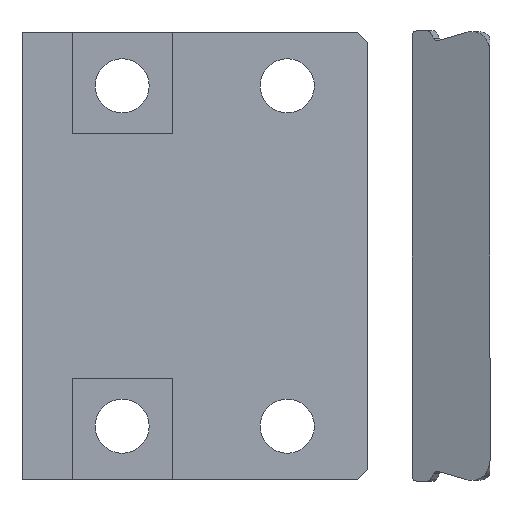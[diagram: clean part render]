
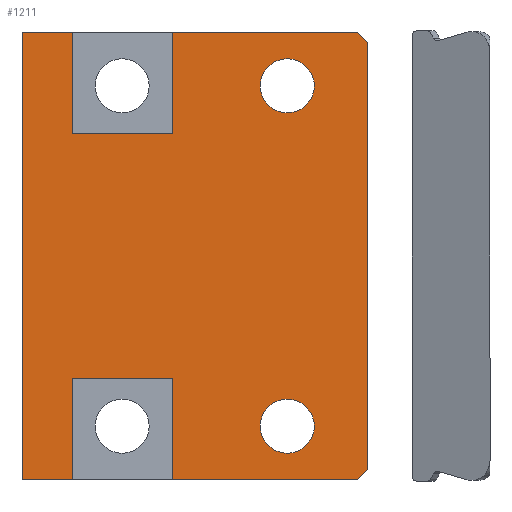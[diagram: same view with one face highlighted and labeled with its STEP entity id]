
A CAD part, front view. The second image highlights one B-rep face of the part: STEP entity #1211.
In plain terms, the highlighted planar face has unit normal (0, -1, 0).
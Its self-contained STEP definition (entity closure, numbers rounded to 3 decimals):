
#772 = VERTEX_POINT ( 'NONE', #1630 ) ;
#775 = VERTEX_POINT ( 'NONE', #1629 ) ;
#827 = EDGE_CURVE ( 'NONE', #772, #775, #1721, .T. ) ;
#828 = VERTEX_POINT ( 'NONE', #1716 ) ;
#850 = EDGE_CURVE ( 'NONE', #828, #852, #1787, .T. ) ;
#852 = VERTEX_POINT ( 'NONE', #1782 ) ;
#856 = VERTEX_POINT ( 'NONE', #1779 ) ;
#1094 = EDGE_CURVE ( 'NONE', #1095, #1096, #2206, .T. ) ;
#1095 = VERTEX_POINT ( 'NONE', #2202 ) ;
#1096 = VERTEX_POINT ( 'NONE', #2201 ) ;
#1099 = EDGE_CURVE ( 'NONE', #1100, #1101, #2200, .T. ) ;
#1100 = VERTEX_POINT ( 'NONE', #2196 ) ;
#1101 = VERTEX_POINT ( 'NONE', #2195 ) ;
#1112 = VERTEX_POINT ( 'NONE', #2237 ) ;
#1133 = VERTEX_POINT ( 'NONE', #2264 ) ;
#1135 = EDGE_CURVE ( 'NONE', #1133, #856, #2263, .T. ) ;
#1136 = ORIENTED_EDGE ( 'NONE', *, *, #850, .T. ) ;
#1137 = EDGE_LOOP ( 'NONE', ( #1193, #1196, #1199, #1202, #1205, #1181, #1182, #1184, #1185, #1187, #1188, #1190, #1191, #1252 ) ) ;
#1150 = VERTEX_POINT ( 'NONE', #2298 ) ;
#1167 = EDGE_CURVE ( 'NONE', #1168, #1112, #2336, .T. ) ;
#1168 = VERTEX_POINT ( 'NONE', #2332 ) ;
#1181 = ORIENTED_EDGE ( 'NONE', *, *, #1207, .T. ) ;
#1182 = ORIENTED_EDGE ( 'NONE', *, *, #1183, .F. ) ;
#1183 = EDGE_CURVE ( 'NONE', #1096, #1150, #2306, .T. ) ;
#1184 = ORIENTED_EDGE ( 'NONE', *, *, #1094, .F. ) ;
#1185 = ORIENTED_EDGE ( 'NONE', *, *, #1186, .F. ) ;
#1186 = EDGE_CURVE ( 'NONE', #1168, #1095, #2362, .T. ) ;
#1187 = ORIENTED_EDGE ( 'NONE', *, *, #1167, .T. ) ;
#1188 = ORIENTED_EDGE ( 'NONE', *, *, #1189, .T. ) ;
#1189 = EDGE_CURVE ( 'NONE', #1112, #856, #2358, .T. ) ;
#1190 = ORIENTED_EDGE ( 'NONE', *, *, #1135, .F. ) ;
#1191 = ORIENTED_EDGE ( 'NONE', *, *, #1192, .F. ) ;
#1192 = EDGE_CURVE ( 'NONE', #1100, #1133, #2354, .T. ) ;
#1193 = ORIENTED_EDGE ( 'NONE', *, *, #1194, .T. ) ;
#1194 = EDGE_CURVE ( 'NONE', #1101, #1195, #2350, .T. ) ;
#1195 = VERTEX_POINT ( 'NONE', #2346 ) ;
#1196 = ORIENTED_EDGE ( 'NONE', *, *, #1197, .T. ) ;
#1197 = EDGE_CURVE ( 'NONE', #1195, #1198, #2345, .T. ) ;
#1198 = VERTEX_POINT ( 'NONE', #2341 ) ;
#1199 = ORIENTED_EDGE ( 'NONE', *, *, #1200, .F. ) ;
#1200 = EDGE_CURVE ( 'NONE', #1201, #1198, #2340, .T. ) ;
#1201 = VERTEX_POINT ( 'NONE', #2399 ) ;
#1202 = ORIENTED_EDGE ( 'NONE', *, *, #1203, .T. ) ;
#1203 = EDGE_CURVE ( 'NONE', #1201, #1204, #2398, .T. ) ;
#1204 = VERTEX_POINT ( 'NONE', #2394 ) ;
#1205 = ORIENTED_EDGE ( 'NONE', *, *, #1206, .F. ) ;
#1206 = EDGE_CURVE ( 'NONE', #1208, #1204, #2393, .T. ) ;
#1207 = EDGE_CURVE ( 'NONE', #1208, #1150, #2389, .T. ) ;
#1208 = VERTEX_POINT ( 'NONE', #2385 ) ;
#1211 = ADVANCED_FACE ( 'NONE', ( #2380, #2379, #2378 ), #2377, .F. ) ;
#1212 = EDGE_LOOP ( 'NONE', ( #1213, #1215 ) ) ;
#1213 = ORIENTED_EDGE ( 'NONE', *, *, #1214, .T. ) ;
#1214 = EDGE_CURVE ( 'NONE', #775, #772, #2371, .T. ) ;
#1215 = ORIENTED_EDGE ( 'NONE', *, *, #827, .T. ) ;
#1216 = EDGE_LOOP ( 'NONE', ( #1217, #1136 ) ) ;
#1217 = ORIENTED_EDGE ( 'NONE', *, *, #1218, .T. ) ;
#1218 = EDGE_CURVE ( 'NONE', #852, #828, #2432, .T. ) ;
#1252 = ORIENTED_EDGE ( 'NONE', *, *, #1099, .T. ) ;
#1629 = CARTESIAN_POINT ( 'NONE',  ( 33., 6.8, 39.4 ) ) ;
#1630 = CARTESIAN_POINT ( 'NONE',  ( 33., 6.8, 28.6 ) ) ;
#1716 = CARTESIAN_POINT ( 'NONE',  ( 33., 6.8, -39.4 ) ) ;
#1717 = DIRECTION ( 'NONE',  ( -1., 0., 0. ) ) ;
#1718 = DIRECTION ( 'NONE',  ( 0., 1., 0. ) ) ;
#1719 = CARTESIAN_POINT ( 'NONE',  ( 33., 6.8, 34. ) ) ;
#1720 = AXIS2_PLACEMENT_3D ( 'NONE', #1719, #1718, #1717 ) ;
#1721 = CIRCLE ( 'NONE', #1720, 5.4 ) ;
#1779 = CARTESIAN_POINT ( 'NONE',  ( -10., 6.8, -44.75 ) ) ;
#1782 = CARTESIAN_POINT ( 'NONE',  ( 33., 6.8, -28.6 ) ) ;
#1783 = DIRECTION ( 'NONE',  ( -1., 0., 0. ) ) ;
#1784 = DIRECTION ( 'NONE',  ( 0., 1., 0. ) ) ;
#1785 = CARTESIAN_POINT ( 'NONE',  ( 33., 6.8, -34. ) ) ;
#1786 = AXIS2_PLACEMENT_3D ( 'NONE', #1785, #1784, #1783 ) ;
#1787 = CIRCLE ( 'NONE', #1786, 5.4 ) ;
#2195 = CARTESIAN_POINT ( 'NONE',  ( 10., 6.8, -44.75 ) ) ;
#2196 = CARTESIAN_POINT ( 'NONE',  ( 10., 6.8, -24.4 ) ) ;
#2197 = DIRECTION ( 'NONE',  ( 0., 0., -1. ) ) ;
#2198 = VECTOR ( 'NONE', #2197, 1000. ) ;
#2199 = CARTESIAN_POINT ( 'NONE',  ( 10., 6.8, 44.75 ) ) ;
#2200 = LINE ( 'NONE', #2199, #2198 ) ;
#2201 = CARTESIAN_POINT ( 'NONE',  ( -10., 6.8, 24.4 ) ) ;
#2202 = CARTESIAN_POINT ( 'NONE',  ( -10., 6.8, 44.75 ) ) ;
#2203 = DIRECTION ( 'NONE',  ( 0., 0., -1. ) ) ;
#2204 = VECTOR ( 'NONE', #2203, 1000. ) ;
#2205 = CARTESIAN_POINT ( 'NONE',  ( -10., 6.8, 44.75 ) ) ;
#2206 = LINE ( 'NONE', #2205, #2204 ) ;
#2237 = CARTESIAN_POINT ( 'NONE',  ( -20., 6.8, -44.75 ) ) ;
#2260 = DIRECTION ( 'NONE',  ( 0., 0., -1. ) ) ;
#2261 = VECTOR ( 'NONE', #2260, 1000. ) ;
#2262 = CARTESIAN_POINT ( 'NONE',  ( -10., 6.8, 44.75 ) ) ;
#2263 = LINE ( 'NONE', #2262, #2261 ) ;
#2264 = CARTESIAN_POINT ( 'NONE',  ( -10., 6.8, -24.4 ) ) ;
#2298 = CARTESIAN_POINT ( 'NONE',  ( 10., 6.8, 24.4 ) ) ;
#2306 = LINE ( 'NONE', #2365, #2364 ) ;
#2332 = CARTESIAN_POINT ( 'NONE',  ( -20., 6.8, 44.75 ) ) ;
#2333 = DIRECTION ( 'NONE',  ( 0., 0., -1. ) ) ;
#2334 = VECTOR ( 'NONE', #2333, 1000. ) ;
#2335 = CARTESIAN_POINT ( 'NONE',  ( -20., 6.8, 44.75 ) ) ;
#2336 = LINE ( 'NONE', #2335, #2334 ) ;
#2340 = LINE ( 'NONE', #2402, #2401 ) ;
#2341 = CARTESIAN_POINT ( 'NONE',  ( 49., 6.8, -42.75 ) ) ;
#2342 = DIRECTION ( 'NONE',  ( 0.707, 0., 0.707 ) ) ;
#2343 = VECTOR ( 'NONE', #2342, 1000. ) ;
#2344 = CARTESIAN_POINT ( 'NONE',  ( 49., 6.8, -42.75 ) ) ;
#2345 = LINE ( 'NONE', #2344, #2343 ) ;
#2346 = CARTESIAN_POINT ( 'NONE',  ( 47., 6.8, -44.75 ) ) ;
#2347 = DIRECTION ( 'NONE',  ( 1., 0., 0. ) ) ;
#2348 = VECTOR ( 'NONE', #2347, 1000. ) ;
#2349 = CARTESIAN_POINT ( 'NONE',  ( 10., 6.8, -44.75 ) ) ;
#2350 = LINE ( 'NONE', #2349, #2348 ) ;
#2351 = DIRECTION ( 'NONE',  ( -1., 0., 0. ) ) ;
#2352 = VECTOR ( 'NONE', #2351, 1000. ) ;
#2353 = CARTESIAN_POINT ( 'NONE',  ( -20., 6.8, -24.4 ) ) ;
#2354 = LINE ( 'NONE', #2353, #2352 ) ;
#2355 = DIRECTION ( 'NONE',  ( 1., 0., 0. ) ) ;
#2356 = VECTOR ( 'NONE', #2355, 1000. ) ;
#2357 = CARTESIAN_POINT ( 'NONE',  ( -20., 6.8, -44.75 ) ) ;
#2358 = LINE ( 'NONE', #2357, #2356 ) ;
#2359 = DIRECTION ( 'NONE',  ( 1., 0., 0. ) ) ;
#2360 = VECTOR ( 'NONE', #2359, 1000. ) ;
#2361 = CARTESIAN_POINT ( 'NONE',  ( -20., 6.8, 44.75 ) ) ;
#2362 = LINE ( 'NONE', #2361, #2360 ) ;
#2363 = DIRECTION ( 'NONE',  ( 1., 0., 0. ) ) ;
#2364 = VECTOR ( 'NONE', #2363, 1000. ) ;
#2365 = CARTESIAN_POINT ( 'NONE',  ( -20., 6.8, 24.4 ) ) ;
#2369 = DIRECTION ( 'NONE',  ( 0., 1., 0. ) ) ;
#2370 = AXIS2_PLACEMENT_3D ( 'NONE', #2375, #2369, #2433 ) ;
#2371 = CIRCLE ( 'NONE', #2370, 5.4 ) ;
#2372 = DIRECTION ( 'NONE',  ( -1., 0., 0. ) ) ;
#2373 = DIRECTION ( 'NONE',  ( 0., 1., 0. ) ) ;
#2374 = AXIS2_PLACEMENT_3D ( 'NONE', #2376, #2373, #2372 ) ;
#2375 = CARTESIAN_POINT ( 'NONE',  ( 33., 6.8, 34. ) ) ;
#2376 = CARTESIAN_POINT ( 'NONE',  ( 10., 6.8, 44.75 ) ) ;
#2377 = PLANE ( 'NONE',  #2374 ) ;
#2378 = FACE_OUTER_BOUND ( 'NONE', #1137, .T. ) ;
#2379 = FACE_BOUND ( 'NONE', #1216, .T. ) ;
#2380 = FACE_BOUND ( 'NONE', #1212, .T. ) ;
#2385 = CARTESIAN_POINT ( 'NONE',  ( 10., 6.8, 44.75 ) ) ;
#2386 = DIRECTION ( 'NONE',  ( 0., 0., -1. ) ) ;
#2387 = VECTOR ( 'NONE', #2386, 1000. ) ;
#2388 = CARTESIAN_POINT ( 'NONE',  ( 10., 6.8, 44.75 ) ) ;
#2389 = LINE ( 'NONE', #2388, #2387 ) ;
#2390 = DIRECTION ( 'NONE',  ( 1., 0., 0. ) ) ;
#2391 = VECTOR ( 'NONE', #2390, 1000. ) ;
#2392 = CARTESIAN_POINT ( 'NONE',  ( 10., 6.8, 44.75 ) ) ;
#2393 = LINE ( 'NONE', #2392, #2391 ) ;
#2394 = CARTESIAN_POINT ( 'NONE',  ( 47., 6.8, 44.75 ) ) ;
#2395 = DIRECTION ( 'NONE',  ( -0.707, 0., 0.707 ) ) ;
#2396 = VECTOR ( 'NONE', #2395, 1000. ) ;
#2397 = CARTESIAN_POINT ( 'NONE',  ( 47., 6.8, 44.75 ) ) ;
#2398 = LINE ( 'NONE', #2397, #2396 ) ;
#2399 = CARTESIAN_POINT ( 'NONE',  ( 49., 6.8, 42.75 ) ) ;
#2400 = DIRECTION ( 'NONE',  ( 0., 0., -1. ) ) ;
#2401 = VECTOR ( 'NONE', #2400, 1000. ) ;
#2402 = CARTESIAN_POINT ( 'NONE',  ( 49., 6.8, 44.75 ) ) ;
#2428 = DIRECTION ( 'NONE',  ( -1., 0., 0. ) ) ;
#2429 = DIRECTION ( 'NONE',  ( 0., 1., 0. ) ) ;
#2430 = CARTESIAN_POINT ( 'NONE',  ( 33., 6.8, -34. ) ) ;
#2431 = AXIS2_PLACEMENT_3D ( 'NONE', #2430, #2429, #2428 ) ;
#2432 = CIRCLE ( 'NONE', #2431, 5.4 ) ;
#2433 = DIRECTION ( 'NONE',  ( -1., 0., 0. ) ) ;
